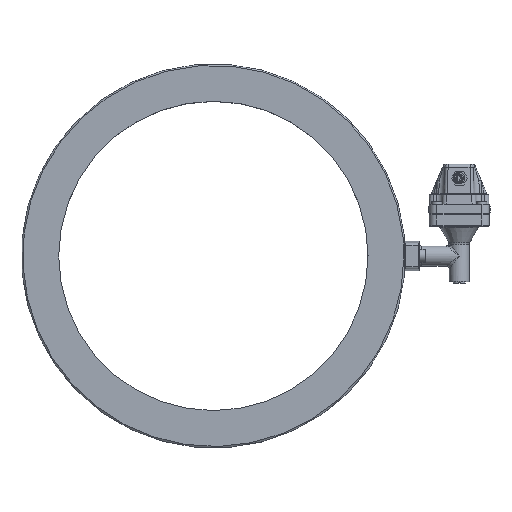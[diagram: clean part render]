
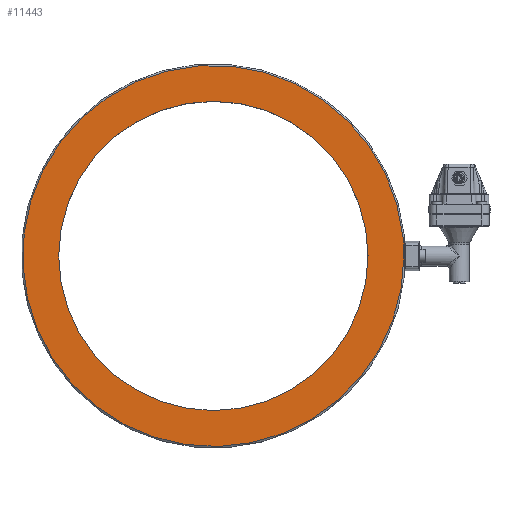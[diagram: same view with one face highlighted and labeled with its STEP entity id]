
A CAD part, top view. The second image highlights one B-rep face of the part: STEP entity #11443.
In plain terms, the highlighted planar face has unit normal (0, 0, 1).
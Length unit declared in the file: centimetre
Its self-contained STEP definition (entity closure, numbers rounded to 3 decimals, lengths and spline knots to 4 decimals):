
#2900=PLANE('',#12718);
#3803=VERTEX_POINT('',#45013);
#3810=VERTEX_POINT('',#45034);
#4465=CIRCLE('',#12713,19.1);
#4469=CIRCLE('',#12719,15.5);
#5948=EDGE_CURVE('',#3803,#3803,#4465,.T.);
#5956=EDGE_CURVE('',#3810,#3810,#4469,.T.);
#8917=ORIENTED_EDGE('',*,*,#5956,.T.);
#8918=ORIENTED_EDGE('',*,*,#5948,.F.);
#9815=EDGE_LOOP('',(#8917));
#9816=EDGE_LOOP('',(#8918));
#10709=FACE_BOUND('',#9815,.T.);
#10710=FACE_BOUND('',#9816,.T.);
#11443=ADVANCED_FACE('',(#10709,#10710),#2900,.T.);
#12713=AXIS2_PLACEMENT_3D('',#45012,#15577,#15578);
#12718=AXIS2_PLACEMENT_3D('',#45032,#15588,$);
#12719=AXIS2_PLACEMENT_3D('',#45033,#15589,#15590);
#15577=DIRECTION('',(0.,0.,-1.));
#15578=DIRECTION('',(-19.1,0.,0.));
#15588=DIRECTION('',(0.,0.,1.));
#15589=DIRECTION('',(0.,0.,-1.));
#15590=DIRECTION('',(-15.5,0.,0.));
#45012=CARTESIAN_POINT('',(-24.669,-6.7693,5.7468));
#45013=CARTESIAN_POINT('',(-5.569,-6.7693,5.7468));
#45032=CARTESIAN_POINT('',(-22.9134,-6.7693,5.7468));
#45033=CARTESIAN_POINT('',(-24.669,-6.7693,5.7468));
#45034=CARTESIAN_POINT('',(-9.169,-6.7693,5.7468));
